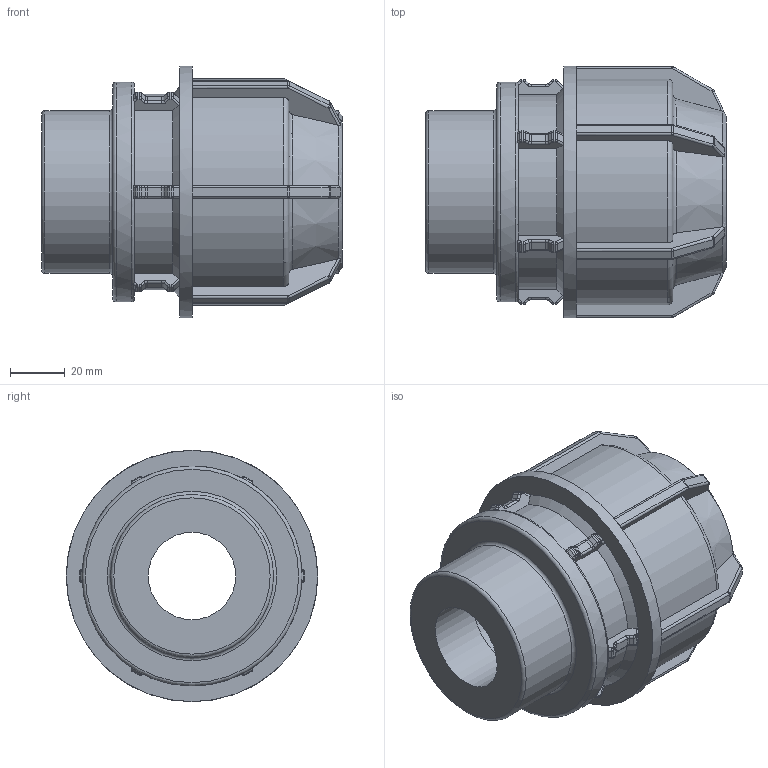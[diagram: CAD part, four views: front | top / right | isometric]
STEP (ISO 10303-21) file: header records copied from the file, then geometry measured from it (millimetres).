
FILE_DESCRIPTION(/* description */ ('PLASSON L.14 MALE ADAPTOR (SILVER) 40-2'''''),/* implementation_level */ '2;1');
FILE_NAME(/* name */ 'C:\Dropbox\KIMPROJECTS-Inventor\99-16-3568-Processing\Silver+MF ISRAEL\140200\140200040020.ipt.stp',/* time_stamp */ '2018-04-09T13:02:49+03:00',/* author */ ('KIM'),/* organization */ (''),/* preprocessor_version */ 'ST-DEVELOPER v15.6',/* originating_system */ 'Autodesk Inventor 2015',/* authorisation */ '');
FILE_SCHEMA (('AUTOMOTIVE_DESIGN { 1 0 10303 214 3 1 1 }'));
Length unit declared in the file: millimetre
Products named in the file (1): 140200040020
Bounding box: 110 x 92 x 92 mm (x, y, z)
Volume: 343660.9 mm3; surface area: 54546.8 mm2
Topology: 1 solids, 1 shells, 472 faces, 1162 edges, 689 vertices
Faces by surface type: cylinder 186, plane 159, bspline 72, torus 42, cone 13
Full cylindrical faces by diameter (mm): 32 x1, 40 x2, 59.614 x1, 80.479 x1, 92 x1
Entity records: 14490 total; most frequent: CARTESIAN_POINT 3774, DIRECTION 2310, ORIENTED_EDGE 2252, EDGE_CURVE 1126, AXIS2_PLACEMENT_3D 930, VERTEX_POINT 676, CIRCLE 508, EDGE_LOOP 488
